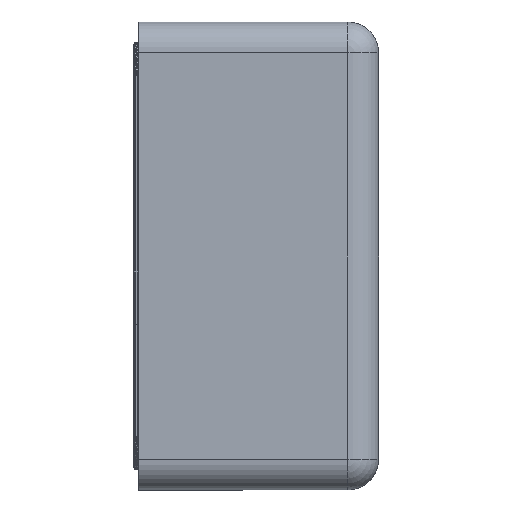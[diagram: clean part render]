
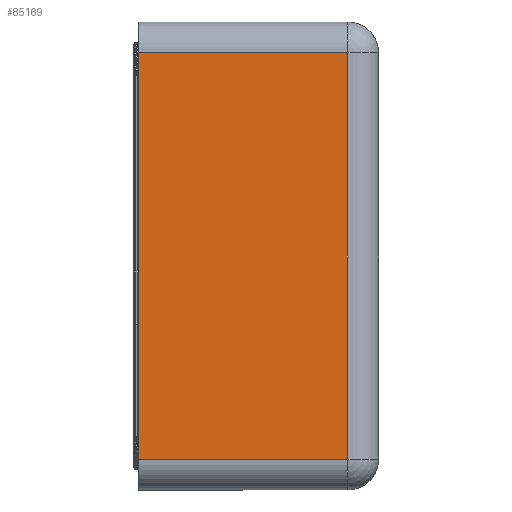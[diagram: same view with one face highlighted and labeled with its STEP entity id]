
A CAD part, left-side view. The second image highlights one B-rep face of the part: STEP entity #85169.
In plain terms, the highlighted planar face has unit normal (-1, 0, 0).
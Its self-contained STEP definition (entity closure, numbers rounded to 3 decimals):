
#139 = CARTESIAN_POINT ( 'NONE',  ( -15., 0., 8.25 ) ) ;
#1847 = VECTOR ( 'NONE', #13738, 39.37 ) ;
#3941 = DIRECTION ( 'NONE',  ( 0., -1., 0. ) ) ;
#6295 = CARTESIAN_POINT ( 'NONE',  ( -15., -43.756, 9.5 ) ) ;
#6944 = VECTOR ( 'NONE', #86446, 39.37 ) ;
#7108 = CARTESIAN_POINT ( 'NONE',  ( -15., -43.756, 8.25 ) ) ;
#11896 = ORIENTED_EDGE ( 'NONE', *, *, #58288, .T. ) ;
#13738 = DIRECTION ( 'NONE',  ( 0., 0., -1. ) ) ;
#17081 = VERTEX_POINT ( 'NONE', #54856 ) ;
#19251 = ORIENTED_EDGE ( 'NONE', *, *, #51549, .T. ) ;
#23422 = EDGE_CURVE ( 'NONE', #54092, #17081, #24143, .T. ) ;
#24143 = LINE ( 'NONE', #51196, #6944 ) ;
#24200 = AXIS2_PLACEMENT_3D ( 'NONE', #6295, #90582, #41572 ) ;
#28362 = LINE ( 'NONE', #83379, #1847 ) ;
#31126 = EDGE_LOOP ( 'NONE', ( #19251, #11896, #48429, #57852 ) ) ;
#34238 = FACE_OUTER_BOUND ( 'NONE', #31126, .T. ) ;
#35041 = DIRECTION ( 'NONE',  ( 0., 1., 0. ) ) ;
#41572 = DIRECTION ( 'NONE',  ( 0., 0., 1. ) ) ;
#48429 = ORIENTED_EDGE ( 'NONE', *, *, #80235, .T. ) ;
#51196 = CARTESIAN_POINT ( 'NONE',  ( -15., -8.495, 9.5 ) ) ;
#51549 = EDGE_CURVE ( 'NONE', #17081, #59947, #84072, .T. ) ;
#54092 = VERTEX_POINT ( 'NONE', #71137 ) ;
#54856 = CARTESIAN_POINT ( 'NONE',  ( -15., -8.495, 8.25 ) ) ;
#55125 = VECTOR ( 'NONE', #35041, 39.37 ) ;
#56886 = VECTOR ( 'NONE', #3941, 39.37 ) ;
#57852 = ORIENTED_EDGE ( 'NONE', *, *, #23422, .T. ) ;
#58288 = EDGE_CURVE ( 'NONE', #59947, #62420, #28362, .T. ) ;
#59379 = LINE ( 'NONE', #79560, #56886 ) ;
#59947 = VERTEX_POINT ( 'NONE', #139 ) ;
#62420 = VERTEX_POINT ( 'NONE', #87072 ) ;
#63077 = PLANE ( 'NONE',  #24200 ) ;
#71137 = CARTESIAN_POINT ( 'NONE',  ( -15., -8.495, -8.25 ) ) ;
#79560 = CARTESIAN_POINT ( 'NONE',  ( -15., -43.756, -8.25 ) ) ;
#80235 = EDGE_CURVE ( 'NONE', #62420, #54092, #59379, .T. ) ;
#83379 = CARTESIAN_POINT ( 'NONE',  ( -15., 0., 9.5 ) ) ;
#84072 = LINE ( 'NONE', #7108, #55125 ) ;
#85169 = ADVANCED_FACE ( 'NONE', ( #34238 ), #63077, .T. ) ;
#86446 = DIRECTION ( 'NONE',  ( 0., 0., 1. ) ) ;
#87072 = CARTESIAN_POINT ( 'NONE',  ( -15., 0., -8.25 ) ) ;
#90582 = DIRECTION ( 'NONE',  ( -1., 0., 0. ) ) ;
